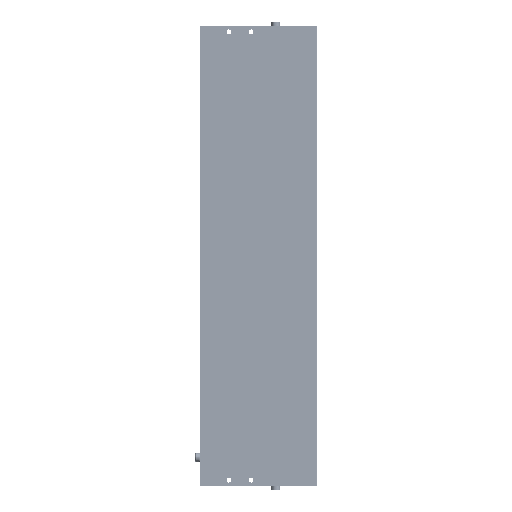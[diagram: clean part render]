
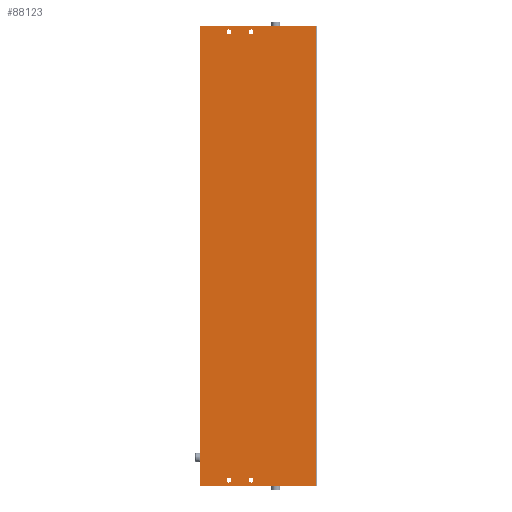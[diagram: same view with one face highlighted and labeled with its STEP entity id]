
A CAD part, front view. The second image highlights one B-rep face of the part: STEP entity #88123.
In plain terms, the highlighted planar face has unit normal (0, -1, 0).
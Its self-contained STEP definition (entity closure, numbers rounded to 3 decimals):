
#47862=DIRECTION('',(1.,0.,0.));
#47863=VECTOR('',#47862,105.);
#47864=CARTESIAN_POINT('',(-52.5,-16.9,416.));
#47865=LINE('',#47864,#47863);
#52194=DIRECTION('',(-1.,0.,0.));
#52195=VECTOR('',#52194,105.);
#52196=CARTESIAN_POINT('',(52.5,-16.9,0.));
#52197=LINE('',#52196,#52195);
#52390=DIRECTION('',(0.,0.,-1.));
#52391=VECTOR('',#52390,416.);
#52392=CARTESIAN_POINT('',(52.5,-16.9,416.));
#52393=LINE('',#52392,#52391);
#52394=CARTESIAN_POINT('',(-26.5,-16.9,411.));
#52395=DIRECTION('',(0.,1.,0.));
#52396=DIRECTION('',(0.,0.,1.));
#52397=AXIS2_PLACEMENT_3D('',#52394,#52395,#52396);
#52399=CARTESIAN_POINT('',(-26.5,-16.9,411.));
#52400=DIRECTION('',(0.,1.,0.));
#52401=DIRECTION('',(0.,0.,-1.));
#52402=AXIS2_PLACEMENT_3D('',#52399,#52400,#52401);
#52404=CARTESIAN_POINT('',(-6.5,-16.9,411.));
#52405=DIRECTION('',(0.,1.,0.));
#52406=DIRECTION('',(0.,0.,1.));
#52407=AXIS2_PLACEMENT_3D('',#52404,#52405,#52406);
#52409=CARTESIAN_POINT('',(-6.5,-16.9,411.));
#52410=DIRECTION('',(0.,1.,0.));
#52411=DIRECTION('',(0.,0.,-1.));
#52412=AXIS2_PLACEMENT_3D('',#52409,#52410,#52411);
#52414=CARTESIAN_POINT('',(-26.5,-16.9,5.));
#52415=DIRECTION('',(0.,1.,0.));
#52416=DIRECTION('',(0.,0.,-1.));
#52417=AXIS2_PLACEMENT_3D('',#52414,#52415,#52416);
#52419=CARTESIAN_POINT('',(-26.5,-16.9,5.));
#52420=DIRECTION('',(0.,1.,0.));
#52421=DIRECTION('',(0.,0.,1.));
#52422=AXIS2_PLACEMENT_3D('',#52419,#52420,#52421);
#52424=CARTESIAN_POINT('',(-6.5,-16.9,5.));
#52425=DIRECTION('',(0.,1.,0.));
#52426=DIRECTION('',(0.,0.,-1.));
#52427=AXIS2_PLACEMENT_3D('',#52424,#52425,#52426);
#52429=CARTESIAN_POINT('',(-6.5,-16.9,5.));
#52430=DIRECTION('',(0.,1.,0.));
#52431=DIRECTION('',(0.,0.,1.));
#52432=AXIS2_PLACEMENT_3D('',#52429,#52430,#52431);
#52438=DIRECTION('',(0.,0.,1.));
#52439=VECTOR('',#52438,416.);
#52440=CARTESIAN_POINT('',(-52.5,-16.9,0.));
#52441=LINE('',#52440,#52439);
#78269=CARTESIAN_POINT('',(-6.5,-16.9,413.25));
#78270=CARTESIAN_POINT('',(-6.5,-16.9,408.75));
#78271=VERTEX_POINT('',#78269);
#78272=VERTEX_POINT('',#78270);
#78284=CARTESIAN_POINT('',(-52.5,-16.9,0.));
#78285=CARTESIAN_POINT('',(-52.5,-16.9,416.));
#78286=VERTEX_POINT('',#78284);
#78287=VERTEX_POINT('',#78285);
#80054=CARTESIAN_POINT('',(-6.5,-16.9,2.75));
#80056=VERTEX_POINT('',#80054);
#80231=CARTESIAN_POINT('',(-26.5,-16.9,2.75));
#80233=VERTEX_POINT('',#80231);
#81937=CARTESIAN_POINT('',(-26.5,-16.9,413.25));
#81938=VERTEX_POINT('',#81937);
#83231=CARTESIAN_POINT('',(-6.5,-16.9,7.25));
#83232=VERTEX_POINT('',#83231);
#83268=CARTESIAN_POINT('',(-26.5,-16.9,7.25));
#83269=VERTEX_POINT('',#83268);
#83362=CARTESIAN_POINT('',(52.5,-16.9,416.));
#83364=VERTEX_POINT('',#83362);
#83852=CARTESIAN_POINT('',(-26.5,-16.9,408.75));
#83853=VERTEX_POINT('',#83852);
#84079=CARTESIAN_POINT('',(52.5,-16.9,0.));
#84080=VERTEX_POINT('',#84079);
#88087=CARTESIAN_POINT('',(-53.,-16.9,0.));
#88088=DIRECTION('',(0.,-1.,0.));
#88089=DIRECTION('',(0.,0.,-1.));
#88090=AXIS2_PLACEMENT_3D('',#88087,#88088,#88089);
#88091=PLANE('',#88090);
#88093=ORIENTED_EDGE('',*,*,#88092,.T.);
#88094=ORIENTED_EDGE('',*,*,#85321,.T.);
#88095=ORIENTED_EDGE('',*,*,#88082,.T.);
#88096=ORIENTED_EDGE('',*,*,#87953,.T.);
#88097=EDGE_LOOP('',(#88093,#88094,#88095,#88096));
#88098=FACE_OUTER_BOUND('',#88097,.F.);
#88100=ORIENTED_EDGE('',*,*,#88099,.F.);
#88102=ORIENTED_EDGE('',*,*,#88101,.F.);
#88103=EDGE_LOOP('',(#88100,#88102));
#88104=FACE_BOUND('',#88103,.F.);
#88106=ORIENTED_EDGE('',*,*,#88105,.F.);
#88108=ORIENTED_EDGE('',*,*,#88107,.F.);
#88109=EDGE_LOOP('',(#88106,#88108));
#88110=FACE_BOUND('',#88109,.F.);
#88112=ORIENTED_EDGE('',*,*,#88111,.F.);
#88114=ORIENTED_EDGE('',*,*,#88113,.F.);
#88115=EDGE_LOOP('',(#88112,#88114));
#88116=FACE_BOUND('',#88115,.F.);
#88118=ORIENTED_EDGE('',*,*,#88117,.F.);
#88120=ORIENTED_EDGE('',*,*,#88119,.F.);
#88121=EDGE_LOOP('',(#88118,#88120));
#88122=FACE_BOUND('',#88121,.F.);
#88123=ADVANCED_FACE('',(#88098,#88104,#88110,#88116,#88122),#88091,.T.);
#52398=CIRCLE('',#52397,2.25);
#52403=CIRCLE('',#52402,2.25);
#52408=CIRCLE('',#52407,2.25);
#52413=CIRCLE('',#52412,2.25);
#52418=CIRCLE('',#52417,2.25);
#52423=CIRCLE('',#52422,2.25);
#52428=CIRCLE('',#52427,2.25);
#52433=CIRCLE('',#52432,2.25);
#85321=EDGE_CURVE('',#78287,#83364,#47865,.T.);
#87953=EDGE_CURVE('',#84080,#78286,#52197,.T.);
#88082=EDGE_CURVE('',#83364,#84080,#52393,.T.);
#88092=EDGE_CURVE('',#78286,#78287,#52441,.T.);
#88099=EDGE_CURVE('',#81938,#83853,#52398,.T.);
#88101=EDGE_CURVE('',#83853,#81938,#52403,.T.);
#88105=EDGE_CURVE('',#78271,#78272,#52408,.T.);
#88107=EDGE_CURVE('',#78272,#78271,#52413,.T.);
#88111=EDGE_CURVE('',#80233,#83269,#52418,.T.);
#88113=EDGE_CURVE('',#83269,#80233,#52423,.T.);
#88117=EDGE_CURVE('',#80056,#83232,#52428,.T.);
#88119=EDGE_CURVE('',#83232,#80056,#52433,.T.);
